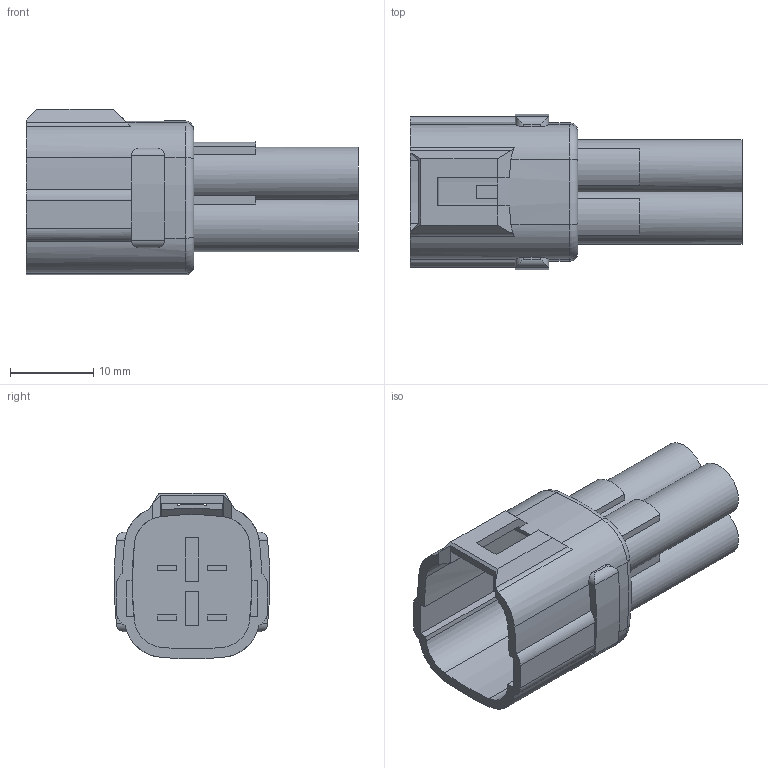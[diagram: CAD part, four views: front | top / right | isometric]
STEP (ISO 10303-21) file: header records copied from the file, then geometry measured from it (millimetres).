
FILE_DESCRIPTION(('CATIA V5 STEP Exchange','CAx-IF Rec.Pracs.--- Model Styling and Organization---1.2---2011-12-15'),'2;1');
FILE_NAME('N:\C-DAM_MyDesk\ENV\900093\6188-0004.stp','2015-01-22T05:18:12+00:00',('none'),('none'),'CATIA Version 5-6 Release 2012 SP4 HF74','CATIA V5 STEP AP214','none');
FILE_SCHEMA(('AUTOMOTIVE_DESIGN { 1 0 10303 214 1 1 1 1 }'));
Length unit declared in the file: millimetre
Products named in the file (1): 6188-0004
Bounding box: 40 x 18.74 x 19.97 mm (x, y, z)
Volume: 4564.9 mm3; surface area: 4303.6 mm2
Topology: 1 solids, 1 shells, 143 faces, 390 edges, 258 vertices
Faces by surface type: plane 81, cylinder 52, torus 8, cone 2
Entity records: 4379 total; most frequent: CARTESIAN_POINT 942, ORIENTED_EDGE 780, DIRECTION 570, EDGE_CURVE 390, VERTEX_POINT 258, VECTOR 231, LINE 231, AXIS2_PLACEMENT_3D 229
